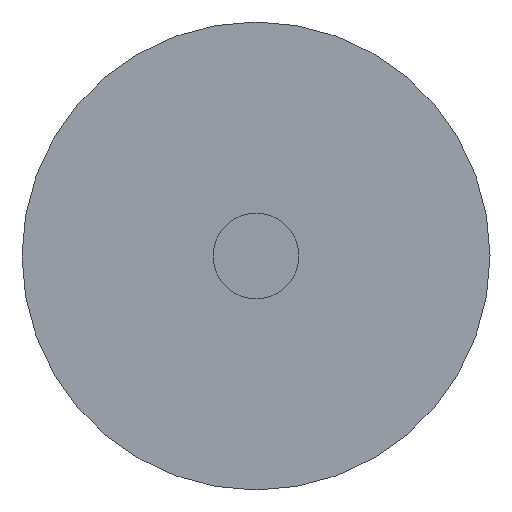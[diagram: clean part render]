
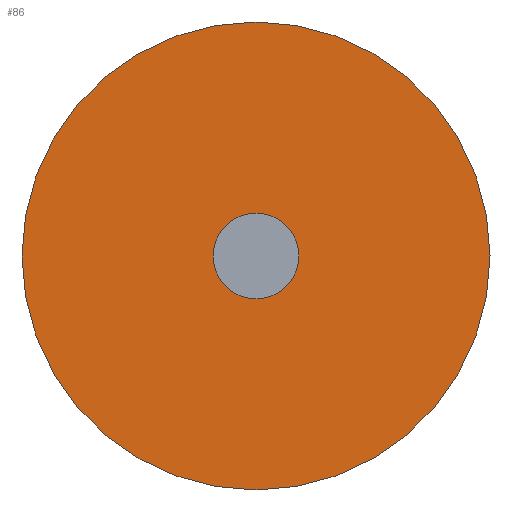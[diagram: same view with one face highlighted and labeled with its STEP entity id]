
A CAD part, left-side view. The second image highlights one B-rep face of the part: STEP entity #86.
In plain terms, the highlighted planar face has unit normal (-1, 0, 0).
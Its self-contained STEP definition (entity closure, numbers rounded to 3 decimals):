
#16=PLANE('',#101);
#26=FACE_OUTER_BOUND('',#36,.T.);
#36=EDGE_LOOP('',(#66));
#47=CIRCLE('',#100,1.5);
#53=VERTEX_POINT('',#149);
#59=EDGE_CURVE('',#53,#53,#47,.T.);
#66=ORIENTED_EDGE('',*,*,#59,.T.);
#86=ADVANCED_FACE('',(#26),#16,.F.);
#100=AXIS2_PLACEMENT_3D('',#150,#119,#120);
#101=AXIS2_PLACEMENT_3D('',#151,#121,#122);
#119=DIRECTION('center_axis',(-1.,0.,0.));
#120=DIRECTION('ref_axis',(0.,-1.,0.));
#121=DIRECTION('center_axis',(1.,0.,0.));
#122=DIRECTION('ref_axis',(0.,0.,-1.));
#149=CARTESIAN_POINT('',(0.,1.5,0.));
#150=CARTESIAN_POINT('Origin',(0.,0.,0.));
#151=CARTESIAN_POINT('Origin',(0.,0.,0.));
